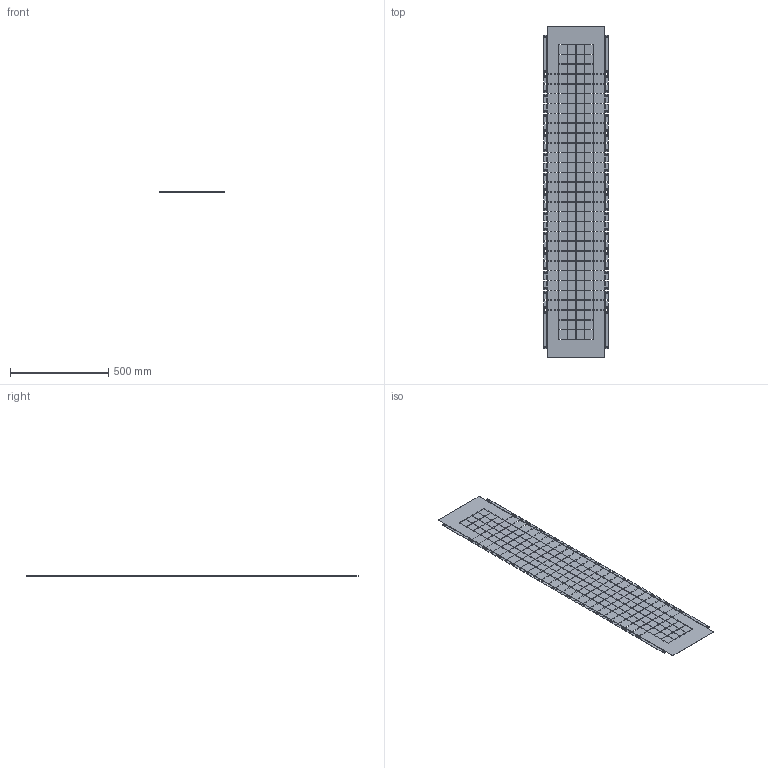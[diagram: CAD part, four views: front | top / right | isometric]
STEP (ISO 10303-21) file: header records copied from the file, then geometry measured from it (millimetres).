
FILE_DESCRIPTION (( 'STEP AP203' ), '1' );
FILE_NAME ('MA1.800.060418.03.01 Ïàíåëü âåðòèêàëüíàÿ äëÿ ñåêöèîíèðîâàíèÿ Ã400 Â1800 ìì EKF.STEP', '2024-12-02T14:01:54', ( '' ), ( '' ), 'SwSTEP 2.0', 'SolidWorks 2021', '' );
FILE_SCHEMA (( 'CONFIG_CONTROL_DESIGN' ));
Length unit declared in the file: millimetre
Products named in the file (1): MA1.800.060418.03.01 Ïàíåëü âåðòèêàëüíàÿ äëÿ ñåêöèîíèðîâàíèÿ Ã400 Â1800 ìì EKF
Bounding box: 326.6 x 1688 x 1 mm (x, y, z)
Volume: 507917.6 mm3; surface area: 1056118 mm2
Topology: 1 solids, 1 shells, 2206 faces, 6612 edges, 4408 vertices
Faces by surface type: plane 2094, cylinder 112
Entity records: 75049 total; most frequent: CARTESIAN_POINT 13227, ORIENTED_EDGE 13224, DIRECTION 11250, EDGE_CURVE 6612, LINE 6388, VECTOR 6388, VERTEX_POINT 4408, EDGE_LOOP 3202
